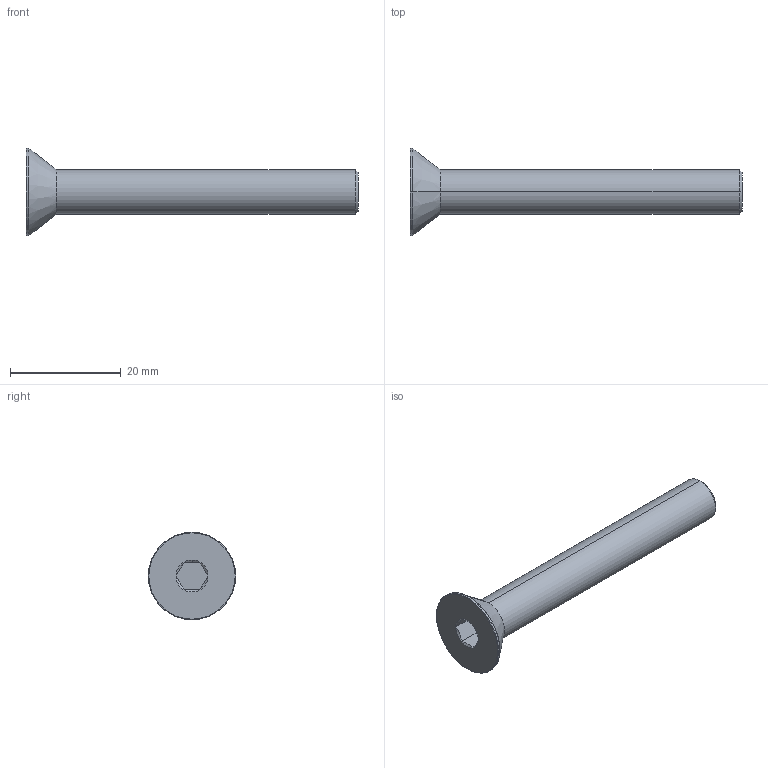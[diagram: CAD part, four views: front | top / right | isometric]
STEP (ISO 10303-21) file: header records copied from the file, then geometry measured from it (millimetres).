
FILE_DESCRIPTION (( 'STEP AP203' ), '1' );
FILE_NAME ('LGDB-304-M8x60.STEP', '2026-08-12T01:44:10', ( '' ), ( '' ), 'SwSTEP 2.0', 'SolidWorks 2020', '' );
FILE_SCHEMA (( 'CONFIG_CONTROL_DESIGN' ));
Length unit declared in the file: millimetre
Products named in the file (1): LGDB-304-M8x60
Bounding box: 60 x 15.8 x 15.8 mm (x, y, z)
Volume: 3323.3 mm3; surface area: 1935.2 mm2
Topology: 1 solids, 1 shells, 28 faces, 53 edges, 28 vertices
Faces by surface type: cone 11, plane 9, torus 4, cylinder 4
Entity records: 796 total; most frequent: CARTESIAN_POINT 157, DIRECTION 129, ORIENTED_EDGE 106, AXIS2_PLACEMENT_3D 54, EDGE_CURVE 53, EDGE_LOOP 29, ADVANCED_FACE 28, FACE_OUTER_BOUND 28
